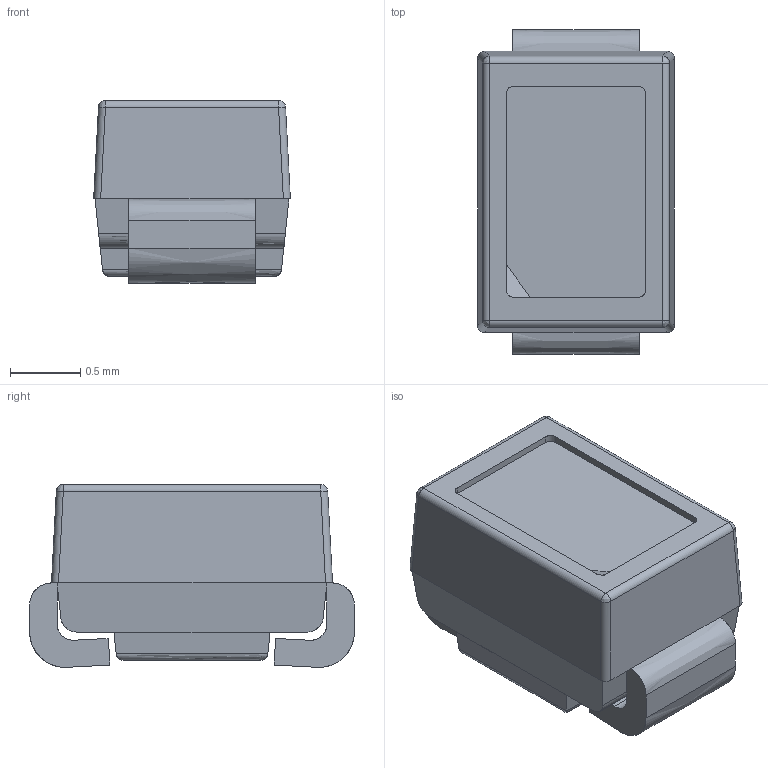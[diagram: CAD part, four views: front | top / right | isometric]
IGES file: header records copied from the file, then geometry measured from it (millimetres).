
Start section: SolidWorks IGES file using analytic representation for surfaces
Global section: file name: D:\JackChen\桌面\EOS-7AUWCR0-DD_A00.IGS,1; native system: 5HSolidWorks 2012; preprocessor: SolidWorks 2012; author: JackChen; date: 170306.135252; units: millimetre
Bounding box: 1.4 x 2.31 x 1.3 mm (x, y, z)
Surface area: 17.5 mm2 (no closed solid volume)
Topology: 0 solids, 0 shells, 74 faces, 467 edges, 462 vertices
Faces by surface type: bspline 51, revolution 23
